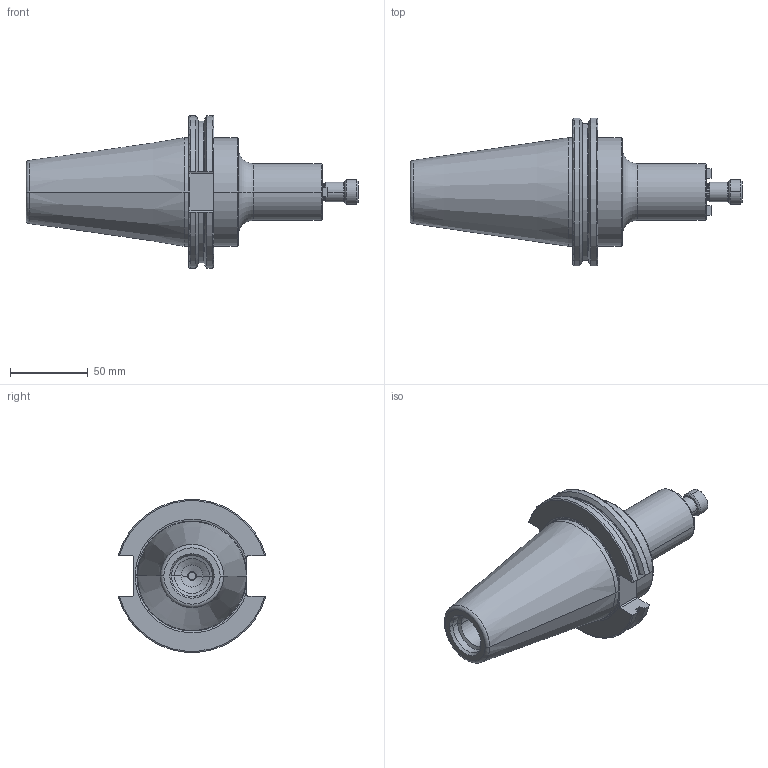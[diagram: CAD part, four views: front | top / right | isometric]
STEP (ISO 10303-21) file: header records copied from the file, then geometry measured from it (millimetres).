
FILE_DESCRIPTION (( 'STEP AP214' ), '1' );
FILE_NAME ('C6S5-0500.STEP', '2016-05-04T18:45:53', ( '' ), ( '' ), 'SwSTEP 2.0', 'SolidWorks 2016', '' );
FILE_SCHEMA (( 'AUTOMOTIVE_DESIGN' ));
Length unit declared in the file: inch
Products named in the file (1): C6S5-0500
Bounding box: 213.47 x 94.95 x 98.05 mm (x, y, z)
Volume: 427308.7 mm3; surface area: 59653.9 mm2
Topology: 1 solids, 2 shells, 240 faces, 612 edges, 368 vertices
Faces by surface type: plane 79, cone 71, cylinder 60, torus 30
Entity records: 7473 total; most frequent: CARTESIAN_POINT 1467, DIRECTION 1301, ORIENTED_EDGE 1200, EDGE_CURVE 600, AXIS2_PLACEMENT_3D 510, VERTEX_POINT 368, LINE 281, VECTOR 281
